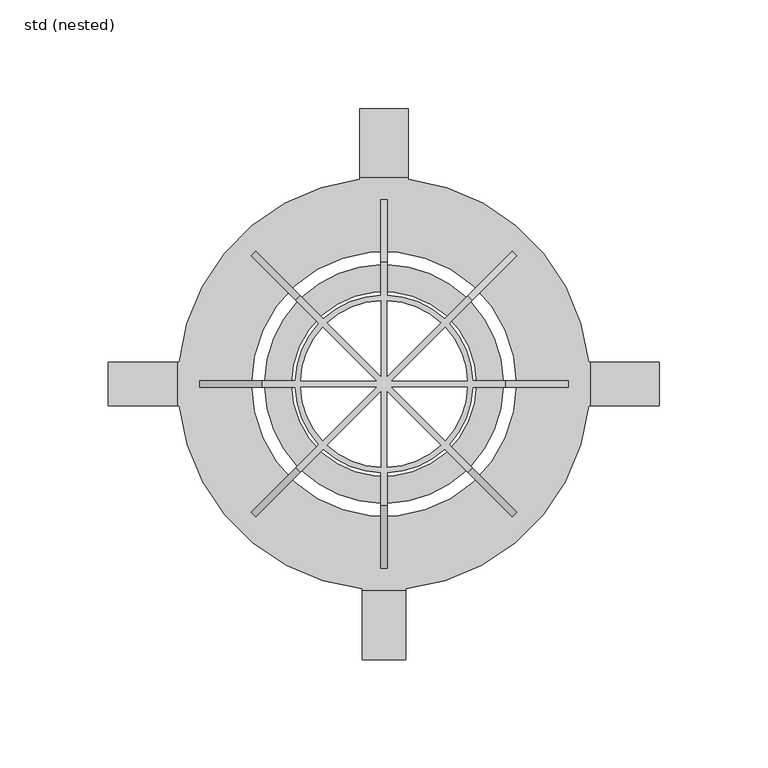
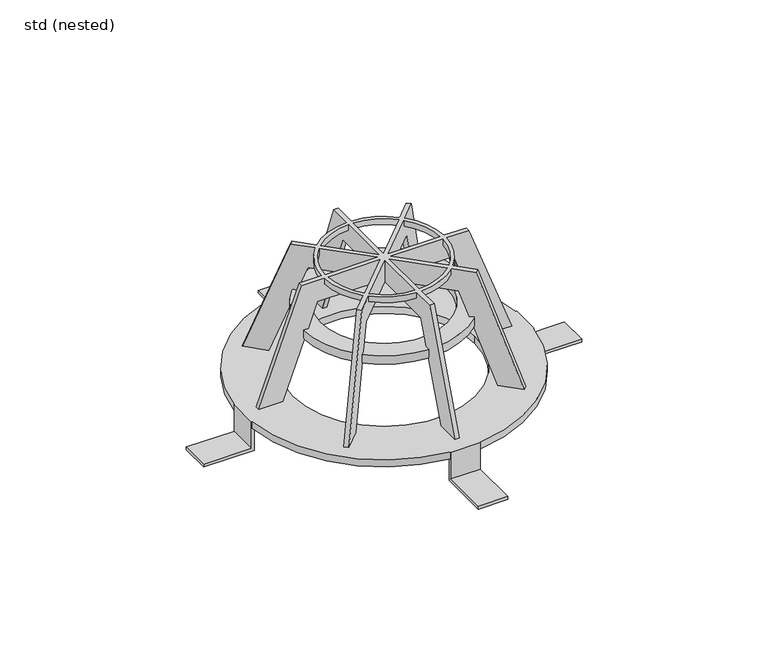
"""IFC4 building model written with IfcOpenShell, lengths in millimetres: sanitary terminal geometry, ZZZ_do not use_PF_PP_gravel trap_ACO : std (nested)."""

from ifc_helpers import new_model, si_unit, frame, origin, place, context, project, spatial, polyline, circle_curve, source, transform, mapped, element, save
from ifc_brep_helpers import plane_surface, cylinder_surface, revolved_surface, advanced_brep


def std_nested_c40f8a32(model_context):
    return source(origin(), model_context, "Body", "AdvancedBrep", [
        advanced_brep(
        [(38.5373196, 40.6586399, 99.0), (59.0434162, 61.1647366, 21.0), (47.7274525, 49.8487728, 21.0), (37.2115055, 39.3328258, 61.0), (37.8157466, 39.9370669, 61.0), (37.8157466, 39.9370669, 67.0), (35.6341134, 37.7554338, 67.0), (31.164836, 33.2861563, 84.0), (1.5, 3.6213203, 84.0), (1.5, 3.6213203, 99.0), (26.1422808, 28.2636012, 99.0), (26.1422808, 28.2636012, 95.0), (27.911309, 30.0326294, 95.0), (27.911309, 30.0326294, 99.0), (-49.8487728, -47.7274525, 21.0), (-61.1647366, -59.0434162, 21.0), (-40.6586399, -38.5373196, 99.0), (-30.0326294, -27.911309, 99.0), (-30.0326294, -27.911309, 95.0), (-28.2636012, -26.1422808, 95.0), (-28.2636012, -26.1422808, 99.0), (-3.6213203, -1.5, 99.0), (-3.6213203, -1.5, 84.0), (-33.2861563, -31.164836, 84.0), (-37.7554338, -35.6341134, 67.0), (-39.9370669, -37.8157466, 67.0), (-39.9370669, -37.8157466, 61.0), (-39.3328258, -37.2115055, 61.0), (-38.5373196, -40.6586399, 99.0), (-59.0434162, -61.1647366, 21.0), (-47.7274525, -49.8487728, 21.0), (-37.2115055, -39.3328258, 61.0), (-37.8157466, -39.9370669, 61.0), (-37.8157466, -39.9370669, 67.0), (-35.6341134, -37.7554338, 67.0), (-31.164836, -33.2861563, 84.0), (-1.5, -3.6213203, 84.0), (-1.5, -3.6213203, 99.0), (-26.1422808, -28.2636012, 99.0), (-26.1422808, -28.2636012, 95.0), (-27.911309, -30.0326294, 95.0), (-27.911309, -30.0326294, 99.0), (49.8487728, 47.7274525, 21.0), (61.1647366, 59.0434162, 21.0), (40.6586399, 38.5373196, 99.0), (30.0326294, 27.911309, 99.0), (30.0326294, 27.911309, 95.0), (28.2636012, 26.1422808, 95.0), (28.2636012, 26.1422808, 99.0), (3.6213203, 1.5, 99.0), (3.6213203, 1.5, 84.0), (33.2861563, 31.164836, 84.0), (37.7554338, 35.6341134, 67.0), (39.9370669, 37.8157466, 67.0), (39.9370669, 37.8157466, 61.0), (39.3328258, 37.2115055, 61.0), (-45.5737337, -1.5, 84.0), (-45.5737337, 1.5, 84.0), (-3.6213203, 1.5, 84.0), (-33.2861563, 31.164836, 84.0), (-31.164836, 33.2861563, 84.0), (-1.5, 3.6213203, 84.0), (-1.5, 45.5737337, 84.0), (1.5, 45.5737337, 84.0), (45.5737337, 1.5, 84.0), (45.5737337, -1.5, 84.0), (3.6213203, -1.5, 84.0), (33.2861563, -31.164836, 84.0), (31.164836, -33.2861563, 84.0), (1.5, -3.6213203, 84.0), (1.5, -45.5737337, 84.0), (-1.5, -45.5737337, 84.0), (-1.5, -40.9725518, 99.0), (-1.5, -56.0, 99.0), (1.5, -56.0, 99.0), (1.5, -40.9725518, 99.0), (27.911309, -30.0326294, 99.0), (38.5373196, -40.6586399, 99.0), (40.6586399, -38.5373196, 99.0), (30.0326294, -27.911309, 99.0), (40.9725518, -1.5, 99.0), (56.0, -1.5, 99.0), (56.0, 1.5, 99.0), (40.9725518, 1.5, 99.0), (1.5, 40.9725518, 99.0), (1.5, 56.0, 99.0), (-1.5, 56.0, 99.0), (-1.5, 40.9725518, 99.0), (-27.911309, 30.0326294, 99.0), (-38.5373196, 40.6586399, 99.0), (-40.6586399, 38.5373196, 99.0), (-30.0326294, 27.911309, 99.0), (-40.9725518, 1.5, 99.0), (-56.0, 1.5, 99.0), (-56.0, -1.5, 99.0), (-40.9725518, -1.5, 99.0), (-38.4707681, -1.5, 99.0), (38.4707681, 1.5, 99.0), (1.5, 38.4707681, 99.0), (-1.5, -38.4707681, 99.0), (-1.5, 3.6213203, 99.0), (-26.1422808, 28.2636012, 99.0), (-1.5, 38.4707681, 99.0), (1.5, -3.6213203, 99.0), (26.1422808, -28.2636012, 99.0), (1.5, -38.4707681, 99.0), (3.6213203, -1.5, 99.0), (38.4707681, -1.5, 99.0), (28.2636012, -26.1422808, 99.0), (-3.6213203, 1.5, 99.0), (-38.4707681, 1.5, 99.0), (-28.2636012, 26.1422808, 99.0), (1.5, -85.0, 21.0), (1.5, -68.9968106, 21.0), (1.5, -54.1250157, 61.0), (1.5, -54.9795416, 61.0), (1.5, -54.9795416, 67.0), (1.5, -51.8942465, 67.0), (1.5, -38.4707681, 95.0), (1.5, -40.9725518, 95.0), (1.5, 68.9968106, 21.0), (1.5, 85.0, 21.0), (1.5, 40.9725518, 95.0), (1.5, 38.4707681, 95.0), (1.5, 51.8942465, 67.0), (1.5, 54.9795416, 67.0), (1.5, 54.9795416, 61.0), (1.5, 54.1250157, 61.0), (-1.5, 85.0, 21.0), (-1.5, 68.9968106, 21.0), (-1.5, 54.1250157, 61.0), (-1.5, 54.9795416, 61.0), (-1.5, 54.9795416, 67.0), (-1.5, 51.8942465, 67.0), (-1.5, 38.4707681, 95.0), (-1.5, 40.9725518, 95.0), (-1.5, -68.9968106, 21.0), (-1.5, -85.0, 21.0), (-1.5, -40.9725518, 95.0), (-1.5, -38.4707681, 95.0), (-1.5, -51.8942465, 67.0), (-1.5, -54.9795416, 67.0), (-1.5, -54.9795416, 61.0), (-1.5, -54.1250157, 61.0), (61.1647366, -59.0434162, 21.0), (49.8487728, -47.7274525, 21.0), (39.3328258, -37.2115055, 61.0), (39.9370669, -37.8157466, 61.0), (39.9370669, -37.8157466, 67.0), (37.7554338, -35.6341134, 67.0), (28.2636012, -26.1422808, 95.0), (30.0326294, -27.911309, 95.0), (-47.7274525, 49.8487728, 21.0), (-59.0434162, 61.1647366, 21.0), (-27.911309, 30.0326294, 95.0), (-26.1422808, 28.2636012, 95.0), (-35.6341134, 37.7554338, 67.0), (-37.8157466, 39.9370669, 67.0), (-37.8157466, 39.9370669, 61.0), (-37.2115055, 39.3328258, 61.0), (-61.1647366, 59.0434162, 21.0), (-49.8487728, 47.7274525, 21.0), (-39.3328258, 37.2115055, 61.0), (-39.9370669, 37.8157466, 61.0), (-39.9370669, 37.8157466, 67.0), (-37.7554338, 35.6341134, 67.0), (-28.2636012, 26.1422808, 95.0), (-30.0326294, 27.911309, 95.0), (47.7274525, -49.8487728, 21.0), (59.0434162, -61.1647366, 21.0), (27.911309, -30.0326294, 95.0), (26.1422808, -28.2636012, 95.0), (35.6341134, -37.7554338, 67.0), (37.8157466, -39.9370669, 67.0), (37.8157466, -39.9370669, 61.0), (37.2115055, -39.3328258, 61.0), (-85.0, -1.5, 21.0), (-68.9968106, -1.5, 21.0), (-54.1250157, -1.5, 61.0), (-54.9795416, -1.5, 61.0), (-54.9795416, -1.5, 67.0), (-51.8942465, -1.5, 67.0), (-38.4707681, -1.5, 95.0), (-40.9725518, -1.5, 95.0), (68.9968106, -1.5, 21.0), (85.0, -1.5, 21.0), (40.9725518, -1.5, 95.0), (38.4707681, -1.5, 95.0), (51.8942465, -1.5, 67.0), (54.9795416, -1.5, 67.0), (54.9795416, -1.5, 61.0), (54.1250157, -1.5, 61.0), (85.0, 1.5, 21.0), (68.9968106, 1.5, 21.0), (54.1250157, 1.5, 61.0), (54.9795416, 1.5, 61.0), (54.9795416, 1.5, 67.0), (51.8942465, 1.5, 67.0), (38.4707681, 1.5, 95.0), (40.9725518, 1.5, 95.0), (-68.9968106, 1.5, 21.0), (-85.0, 1.5, 21.0), (-40.9725518, 1.5, 95.0), (-38.4707681, 1.5, 95.0), (-51.8942465, 1.5, 67.0), (-54.9795416, 1.5, 67.0), (-54.9795416, 1.5, 61.0), (-54.1250157, 1.5, 61.0), (42.5, 0.0, 61.0), (-42.5, 0.0, 61.0), (42.5, 0.0, 67.0), (-42.5, 0.0, 67.0)],
        [
            (0, 1),
            (1, 2),
            (2, 3),
            (3, 4),
            (4, 5),
            (5, 6),
            (6, 7),
            (7, 8),
            (8, 9),
            (9, 10),
            (10, 11),
            (11, 12),
            (12, 13),
            (13, 0),
            (14, 15),
            (15, 16),
            (16, 17),
            (17, 18),
            (18, 19),
            (19, 20),
            (20, 21),
            (21, 22),
            (22, 23),
            (23, 24),
            (24, 25),
            (25, 26),
            (26, 27),
            (27, 14),
            (28, 29),
            (29, 30),
            (30, 31),
            (31, 32),
            (32, 33),
            (33, 34),
            (34, 35),
            (35, 36),
            (36, 37),
            (37, 38),
            (38, 39),
            (39, 40),
            (40, 41),
            (41, 28),
            (42, 43),
            (43, 44),
            (44, 45),
            (45, 46),
            (46, 47),
            (47, 48),
            (48, 49),
            (49, 50),
            (50, 51),
            (51, 52),
            (52, 53),
            (53, 54),
            (54, 55),
            (55, 42),
            (15, 29),
            (28, 16),
            (14, 30),
            (27, 31),
            (23, 35),
            (34, 24),
            (22, 56),
            (56, 57),
            (57, 58),
            (58, 59),
            (59, 60),
            (60, 61),
            (61, 62),
            (62, 63),
            (63, 8),
            (7, 51),
            (50, 64),
            (64, 65),
            (65, 66),
            (66, 67),
            (67, 68),
            (68, 69),
            (69, 70),
            (70, 71),
            (71, 36),
            (6, 52),
            (2, 42),
            (55, 3),
            (1, 43),
            (0, 44),
            (41, 72, circle_curve(frame((0.0, 0.0, 99.0), z_axis=(0.0, 0.0, 1.0), x_axis=(-1.0, 0.0, 0.0)), 41.0)),
            (72, 73),
            (73, 74),
            (74, 75),
            (75, 76, circle_curve(frame((0.0, 0.0, 99.0), z_axis=(0.0, 0.0, 1.0), x_axis=(-1.0, 0.0, 0.0)), 41.0)),
            (76, 77),
            (77, 78),
            (78, 79),
            (79, 80, circle_curve(frame((0.0, 0.0, 99.0), z_axis=(0.0, 0.0, 1.0), x_axis=(-1.0, 0.0, 0.0)), 41.0)),
            (80, 81),
            (81, 82),
            (82, 83),
            (83, 45, circle_curve(frame((0.0, 0.0, 99.0), z_axis=(0.0, 0.0, 1.0), x_axis=(-1.0, 0.0, 0.0)), 41.0)),
            (13, 84, circle_curve(frame((0.0, 0.0, 99.0), z_axis=(0.0, 0.0, 1.0), x_axis=(-1.0, 0.0, 0.0)), 41.0)),
            (84, 85),
            (85, 86),
            (86, 87),
            (87, 88, circle_curve(frame((0.0, 0.0, 99.0), z_axis=(0.0, 0.0, 1.0), x_axis=(-1.0, 0.0, 0.0)), 41.0)),
            (88, 89),
            (89, 90),
            (90, 91),
            (91, 92, circle_curve(frame((0.0, 0.0, 99.0), z_axis=(0.0, 0.0, 1.0), x_axis=(-1.0, 0.0, 0.0)), 41.0)),
            (92, 93),
            (93, 94),
            (94, 95),
            (95, 17, circle_curve(frame((0.0, 0.0, 99.0), z_axis=(0.0, 0.0, 1.0), x_axis=(-1.0, 0.0, 0.0)), 41.0)),
            (20, 96, circle_curve(frame((0.0, 0.0, 99.0), z_axis=(0.0, 0.0, -1.0), x_axis=(-1.0, 0.0, 0.0)), 38.5)),
            (96, 21),
            (48, 97, circle_curve(frame((0.0, 0.0, 99.0), z_axis=(0.0, 0.0, -1.0), x_axis=(-1.0, 0.0, 0.0)), 38.5)),
            (97, 49),
            (9, 98),
            (98, 10, circle_curve(frame((0.0, 0.0, 99.0), z_axis=(0.0, 0.0, -1.0), x_axis=(-1.0, 0.0, 0.0)), 38.5)),
            (37, 99),
            (99, 38, circle_curve(frame((0.0, 0.0, 99.0), z_axis=(0.0, 0.0, -1.0), x_axis=(-1.0, 0.0, 0.0)), 38.5)),
            (100, 101),
            (101, 102, circle_curve(frame((0.0, 0.0, 99.0), z_axis=(0.0, 0.0, -1.0), x_axis=(-1.0, 0.0, 0.0)), 38.5)),
            (102, 100),
            (103, 104),
            (104, 105, circle_curve(frame((0.0, 0.0, 99.0), z_axis=(0.0, 0.0, -1.0), x_axis=(-1.0, 0.0, 0.0)), 38.5)),
            (105, 103),
            (106, 107),
            (107, 108, circle_curve(frame((0.0, 0.0, 99.0), z_axis=(0.0, 0.0, -1.0), x_axis=(-1.0, 0.0, 0.0)), 38.5)),
            (108, 106),
            (109, 110),
            (110, 111, circle_curve(frame((0.0, 0.0, 99.0), z_axis=(0.0, 0.0, -1.0), x_axis=(-1.0, 0.0, 0.0)), 38.5)),
            (111, 109),
            (74, 112),
            (112, 113),
            (113, 114),
            (114, 115),
            (115, 116),
            (116, 117),
            (117, 70),
            (69, 103),
            (105, 118),
            (118, 119),
            (119, 75),
            (120, 121),
            (121, 85),
            (84, 122),
            (122, 123),
            (123, 98),
            (63, 124),
            (124, 125),
            (125, 126),
            (126, 127),
            (127, 120),
            (86, 128),
            (128, 129),
            (129, 130),
            (130, 131),
            (131, 132),
            (132, 133),
            (133, 62),
            (61, 100),
            (102, 134),
            (134, 135),
            (135, 87),
            (136, 137),
            (137, 73),
            (72, 138),
            (138, 139),
            (139, 99),
            (71, 140),
            (140, 141),
            (141, 142),
            (142, 143),
            (143, 136),
            (137, 112),
            (136, 113),
            (117, 140),
            (143, 114),
            (133, 124),
            (129, 120),
            (127, 130),
            (128, 121),
            (78, 144),
            (144, 145),
            (145, 146),
            (146, 147),
            (147, 148),
            (148, 149),
            (149, 67),
            (66, 106),
            (108, 150),
            (150, 151),
            (151, 79),
            (152, 153),
            (153, 89),
            (88, 154),
            (154, 155),
            (155, 101),
            (60, 156),
            (156, 157),
            (157, 158),
            (158, 159),
            (159, 152),
            (90, 160),
            (160, 161),
            (161, 162),
            (162, 163),
            (163, 164),
            (164, 165),
            (165, 59),
            (58, 109),
            (111, 166),
            (166, 167),
            (167, 91),
            (168, 169),
            (169, 77),
            (76, 170),
            (170, 171),
            (171, 104),
            (68, 172),
            (172, 173),
            (173, 174),
            (174, 175),
            (175, 168),
            (169, 144),
            (168, 145),
            (149, 172),
            (175, 146),
            (165, 156),
            (161, 152),
            (159, 162),
            (160, 153),
            (94, 176),
            (176, 177),
            (177, 178),
            (178, 179),
            (179, 180),
            (180, 181),
            (181, 56),
            (96, 182),
            (182, 183),
            (183, 95),
            (184, 185),
            (185, 81),
            (80, 186),
            (186, 187),
            (187, 107),
            (65, 188),
            (188, 189),
            (189, 190),
            (190, 191),
            (191, 184),
            (82, 192),
            (192, 193),
            (193, 194),
            (194, 195),
            (195, 196),
            (196, 197),
            (197, 64),
            (97, 198),
            (198, 199),
            (199, 83),
            (200, 201),
            (201, 93),
            (92, 202),
            (202, 203),
            (203, 110),
            (57, 204),
            (204, 205),
            (205, 206),
            (206, 207),
            (207, 200),
            (201, 176),
            (200, 177),
            (181, 204),
            (207, 178),
            (197, 188),
            (193, 184),
            (191, 194),
            (192, 185),
            (142, 32, circle_curve(frame((0.0, 0.0, 61.0), z_axis=(0.0, 0.0, -1.0), x_axis=(-1.0, 0.0, 0.0)), 55.0)),
            (26, 179, circle_curve(frame((0.0, 0.0, 61.0), z_axis=(0.0, 0.0, -1.0), x_axis=(-1.0, 0.0, 0.0)), 55.0)),
            (206, 163, circle_curve(frame((0.0, 0.0, 61.0), z_axis=(0.0, 0.0, -1.0), x_axis=(-1.0, 0.0, 0.0)), 55.0)),
            (158, 131, circle_curve(frame((0.0, 0.0, 61.0), z_axis=(0.0, 0.0, -1.0), x_axis=(-1.0, 0.0, 0.0)), 55.0)),
            (126, 4, circle_curve(frame((0.0, 0.0, 61.0), z_axis=(0.0, 0.0, -1.0), x_axis=(-1.0, 0.0, 0.0)), 55.0)),
            (54, 195, circle_curve(frame((0.0, 0.0, 61.0), z_axis=(0.0, 0.0, -1.0), x_axis=(-1.0, 0.0, 0.0)), 55.0)),
            (190, 147, circle_curve(frame((0.0, 0.0, 61.0), z_axis=(0.0, 0.0, -1.0), x_axis=(-1.0, 0.0, 0.0)), 55.0)),
            (174, 115, circle_curve(frame((0.0, 0.0, 61.0), z_axis=(0.0, 0.0, -1.0), x_axis=(-1.0, 0.0, 0.0)), 55.0)),
            (208, 209, circle_curve(frame((0.0, 0.0, 61.0), z_axis=(0.0, 0.0, 1.0), x_axis=(-1.0, 0.0, 0.0)), 42.5)),
            (209, 208, circle_curve(frame((0.0, 0.0, 61.0), z_axis=(0.0, 0.0, 1.0), x_axis=(-1.0, 0.0, 0.0)), 42.5)),
            (5, 125, circle_curve(frame((0.0, 0.0, 67.0), z_axis=(0.0, 0.0, 1.0), x_axis=(-1.0, 0.0, 0.0)), 55.0)),
            (132, 157, circle_curve(frame((0.0, 0.0, 67.0), z_axis=(0.0, 0.0, 1.0), x_axis=(-1.0, 0.0, 0.0)), 55.0)),
            (164, 205, circle_curve(frame((0.0, 0.0, 67.0), z_axis=(0.0, 0.0, 1.0), x_axis=(-1.0, 0.0, 0.0)), 55.0)),
            (180, 25, circle_curve(frame((0.0, 0.0, 67.0), z_axis=(0.0, 0.0, 1.0), x_axis=(-1.0, 0.0, 0.0)), 55.0)),
            (33, 141, circle_curve(frame((0.0, 0.0, 67.0), z_axis=(0.0, 0.0, 1.0), x_axis=(-1.0, 0.0, 0.0)), 55.0)),
            (116, 173, circle_curve(frame((0.0, 0.0, 67.0), z_axis=(0.0, 0.0, 1.0), x_axis=(-1.0, 0.0, 0.0)), 55.0)),
            (148, 189, circle_curve(frame((0.0, 0.0, 67.0), z_axis=(0.0, 0.0, 1.0), x_axis=(-1.0, 0.0, 0.0)), 55.0)),
            (196, 53, circle_curve(frame((0.0, 0.0, 67.0), z_axis=(0.0, 0.0, 1.0), x_axis=(-1.0, 0.0, 0.0)), 55.0)),
            (210, 211, circle_curve(frame((0.0, 0.0, 67.0), z_axis=(0.0, 0.0, -1.0), x_axis=(-1.0, 0.0, 0.0)), 42.5)),
            (211, 210, circle_curve(frame((0.0, 0.0, 67.0), z_axis=(0.0, 0.0, -1.0), x_axis=(-1.0, 0.0, 0.0)), 42.5)),
            (209, 211),
            (210, 208),
            (138, 40, circle_curve(frame((0.0, 0.0, 95.0), z_axis=(0.0, 0.0, -1.0), x_axis=(-1.0, 0.0, 0.0)), 41.0)),
            (39, 139, circle_curve(frame((0.0, 0.0, 95.0), z_axis=(0.0, 0.0, 1.0), x_axis=(-1.0, 0.0, 0.0)), 38.5)),
            (170, 119, circle_curve(frame((0.0, 0.0, 95.0), z_axis=(0.0, 0.0, -1.0), x_axis=(-1.0, 0.0, 0.0)), 41.0)),
            (118, 171, circle_curve(frame((0.0, 0.0, 95.0), z_axis=(0.0, 0.0, 1.0), x_axis=(-1.0, 0.0, 0.0)), 38.5)),
            (186, 151, circle_curve(frame((0.0, 0.0, 95.0), z_axis=(0.0, 0.0, -1.0), x_axis=(-1.0, 0.0, 0.0)), 41.0)),
            (150, 187, circle_curve(frame((0.0, 0.0, 95.0), z_axis=(0.0, 0.0, 1.0), x_axis=(-1.0, 0.0, 0.0)), 38.5)),
            (18, 183, circle_curve(frame((0.0, 0.0, 95.0), z_axis=(0.0, 0.0, -1.0), x_axis=(-1.0, 0.0, 0.0)), 41.0)),
            (182, 19, circle_curve(frame((0.0, 0.0, 95.0), z_axis=(0.0, 0.0, 1.0), x_axis=(-1.0, 0.0, 0.0)), 38.5)),
            (122, 12, circle_curve(frame((0.0, 0.0, 95.0), z_axis=(0.0, 0.0, -1.0), x_axis=(-1.0, 0.0, 0.0)), 41.0)),
            (11, 123, circle_curve(frame((0.0, 0.0, 95.0), z_axis=(0.0, 0.0, 1.0), x_axis=(-1.0, 0.0, 0.0)), 38.5)),
            (154, 135, circle_curve(frame((0.0, 0.0, 95.0), z_axis=(0.0, 0.0, -1.0), x_axis=(-1.0, 0.0, 0.0)), 41.0)),
            (134, 155, circle_curve(frame((0.0, 0.0, 95.0), z_axis=(0.0, 0.0, 1.0), x_axis=(-1.0, 0.0, 0.0)), 38.5)),
            (202, 167, circle_curve(frame((0.0, 0.0, 95.0), z_axis=(0.0, 0.0, -1.0), x_axis=(-1.0, 0.0, 0.0)), 41.0)),
            (166, 203, circle_curve(frame((0.0, 0.0, 95.0), z_axis=(0.0, 0.0, 1.0), x_axis=(-1.0, 0.0, 0.0)), 38.5)),
            (46, 199, circle_curve(frame((0.0, 0.0, 95.0), z_axis=(0.0, 0.0, -1.0), x_axis=(-1.0, 0.0, 0.0)), 41.0)),
            (198, 47, circle_curve(frame((0.0, 0.0, 95.0), z_axis=(0.0, 0.0, 1.0), x_axis=(-1.0, 0.0, 0.0)), 38.5)),
        ],
        [
            plane_surface(frame((-40.6586399, -38.5373196, 99.0), z_axis=(-0.7071067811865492, 0.7071067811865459, 0.0), x_axis=(0.7071067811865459, 0.7071067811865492, 0.0))),
            plane_surface(frame((-38.5373196, -40.6586399, 99.0), z_axis=(0.7071067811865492, -0.7071067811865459, 0.0), x_axis=(-0.7071067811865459, -0.7071067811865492, 0.0))),
            plane_surface(frame((-61.1647366, -59.0434162, 21.0), z_axis=(-0.6627804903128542, -0.6627804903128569, 0.3484882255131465), x_axis=(0.707106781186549, -0.7071067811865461, 0.0))),
            plane_surface(frame((-49.8487728, -47.7274525, 21.0), z_axis=(0.0, 0.0, -1.0), x_axis=(0.707106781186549, -0.7071067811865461, 0.0))),
            plane_surface(frame((-33.2861563, -31.164836, 84.0), z_axis=(0.6627804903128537, 0.6627804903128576, -0.3484882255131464), x_axis=(0.7071067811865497, -0.7071067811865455, 0.0))),
            plane_surface(frame((31.164836, 33.2861563, 84.0), z_axis=(0.0, 0.0, -1.0), x_axis=(0.707106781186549, -0.7071067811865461, 0.0))),
            plane_surface(frame((47.7274525, 49.8487728, 21.0), z_axis=(-0.6627804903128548, -0.6627804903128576, -0.3484882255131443), x_axis=(0.707106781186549, -0.7071067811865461, 0.0))),
            plane_surface(frame((59.0434162, 61.1647366, 21.0), z_axis=(0.0, 0.0, -1.0), x_axis=(0.7071067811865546, -0.7071067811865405, 0.0))),
            plane_surface(frame((38.5373196, 40.6586399, 99.0), z_axis=(0.662780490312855, 0.6627804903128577, 0.34848822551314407), x_axis=(0.707106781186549, -0.7071067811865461, 0.0))),
            plane_surface(frame((-40.6586399, -38.5373196, 99.0), z_axis=(0.0, 0.0, 1.0), x_axis=(0.707106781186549, -0.7071067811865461, 0.0))),
            plane_surface(frame((1.5, -85.0, 21.0), z_axis=(1.0, 0.0, 0.0), x_axis=(0.0, -0.3484882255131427, -0.9373131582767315))),
            plane_surface(frame((-1.5, -85.0, 21.0), z_axis=(-1.0, 0.0, 0.0), x_axis=(0.0, 0.3484882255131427, 0.9373131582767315))),
            plane_surface(frame((1.5, -56.0, 99.0), z_axis=(0.0, -0.9373131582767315, 0.3484882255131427), x_axis=(-1.0, 0.0, 0.0))),
            plane_surface(frame((1.5, -85.0, 21.0), z_axis=(0.0, 0.0, -1.0), x_axis=(-1.0, 0.0, 0.0))),
            plane_surface(frame((1.5, -68.9968106, 21.0), z_axis=(0.0, 0.9373131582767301, -0.34848822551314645), x_axis=(-1.0, 0.0, 0.0))),
            plane_surface(frame((1.5, 45.5737337, 84.0), z_axis=(0.0, -0.9373131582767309, -0.34848822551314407), x_axis=(-1.0, 0.0, 0.0))),
            plane_surface(frame((1.5, 68.9968106, 21.0), z_axis=(0.0, 0.0, -1.0), x_axis=(-1.0, 0.0, 0.0))),
            plane_surface(frame((1.5, 85.0, 21.0), z_axis=(0.0, 0.9373131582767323, 0.34848822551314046), x_axis=(-1.0, 0.0, 0.0))),
            plane_surface(frame((61.1647366, -59.0434162, 21.0), z_axis=(0.7071067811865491, 0.7071067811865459, 0.0), x_axis=(0.24641838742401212, -0.24641838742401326, -0.93731315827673))),
            plane_surface(frame((59.0434162, -61.1647366, 21.0), z_axis=(-0.7071067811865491, -0.7071067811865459, 0.0), x_axis=(-0.24641838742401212, 0.24641838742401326, 0.93731315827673))),
            plane_surface(frame((40.6586399, -38.5373196, 99.0), z_axis=(0.6627804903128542, -0.6627804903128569, 0.3484882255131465), x_axis=(-0.707106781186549, -0.7071067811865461, 0.0))),
            plane_surface(frame((61.1647366, -59.0434162, 21.0), z_axis=(0.0, 0.0, -1.0), x_axis=(-0.7071067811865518, -0.7071067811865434, 0.0))),
            plane_surface(frame((49.8487728, -47.7274525, 21.0), z_axis=(-0.6627804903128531, 0.6627804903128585, -0.3484882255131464), x_axis=(-0.7071067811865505, -0.7071067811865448, 0.0))),
            plane_surface(frame((-31.164836, 33.2861563, 84.0), z_axis=(0.6627804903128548, -0.6627804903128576, -0.34848822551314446), x_axis=(-0.707106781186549, -0.7071067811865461, 0.0))),
            plane_surface(frame((-47.7274525, 49.8487728, 21.0), z_axis=(0.0, 0.0, -1.0), x_axis=(-0.7071067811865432, -0.7071067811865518, 0.0))),
            plane_surface(frame((-59.0434162, 61.1647366, 21.0), z_axis=(-0.662780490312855, 0.6627804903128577, 0.34848822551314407), x_axis=(-0.707106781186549, -0.7071067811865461, 0.0))),
            plane_surface(frame((-56.0, -1.5, 99.0), z_axis=(0.0, -1.0, 0.0), x_axis=(-1.0, 0.0, 0.0))),
            plane_surface(frame((-56.0, 1.5, 99.0), z_axis=(0.0, 1.0, 0.0), x_axis=(1.0, 0.0, 0.0))),
            plane_surface(frame((-56.0, -1.5, 99.0), z_axis=(-0.9373131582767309, 0.0, 0.3484882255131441), x_axis=(0.0, 1.0, 0.0))),
            plane_surface(frame((-85.0, -1.5, 21.0), z_axis=(0.0, 0.0, -1.0), x_axis=(0.0, 1.0, 0.0))),
            plane_surface(frame((-68.9968106, -1.5, 21.0), z_axis=(0.9373131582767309, 0.0, -0.3484882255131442), x_axis=(0.0, 1.0, 0.0))),
            plane_surface(frame((45.5737337, -1.5, 84.0), z_axis=(-0.9373131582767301, 0.0, -0.3484882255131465), x_axis=(0.0, 1.0, 0.0))),
            plane_surface(frame((68.9968106, -1.5, 21.0), z_axis=(0.0, 0.0, -1.0), x_axis=(0.0, 1.0, 0.0))),
            plane_surface(frame((85.0, -1.5, 21.0), z_axis=(0.9373131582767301, 0.0, 0.3484882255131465), x_axis=(0.0, 1.0, 0.0))),
            plane_surface(frame((-42.5, 0.0, 61.0), z_axis=(0.0, 0.0, -1.0), x_axis=(0.0, -1.0, 0.0))),
            plane_surface(frame((-42.5, 0.0, 67.0), z_axis=(0.0, 0.0, 1.0), x_axis=(0.0, 1.0, 0.0))),
            revolved_surface(polyline([(-42.5, 0.0, 61.0), (-42.5, 0.0, 67.0)]), (0.0, 0.0, 61.0), (0.0, 0.0, -1.0)),
            cylinder_surface(frame((0.0, 0.0, 67.0), z_axis=(0.0, 0.0, 1.0), x_axis=(-1.0, 0.0, 0.0)), 55.0),
            plane_surface(frame((-41.0, 0.0, 95.0), z_axis=(0.0, 0.0, -1.0), x_axis=(0.0, 1.0, 0.0))),
            cylinder_surface(frame((0.0, 0.0, 95.0), z_axis=(0.0, 0.0, 1.0), x_axis=(-1.0, 0.0, 0.0)), 41.0),
            revolved_surface(polyline([(-38.5, 0.0, 95.0), (-38.5, 0.0, 99.0)]), (0.0, 0.0, 99.0), (0.0, 0.0, -1.0)),
        ],
        [
            (0, [[1, 2, 3, 4, 5, 6, 7, 8, 9, 10, 11, 12, 13, 14]]),
            (0, [[15, 16, 17, 18, 19, 20, 21, 22, 23, 24, 25, 26, 27, 28]]),
            (1, [[29, 30, 31, 32, 33, 34, 35, 36, 37, 38, 39, 40, 41, 42]]),
            (1, [[43, 44, 45, 46, 47, 48, 49, 50, 51, 52, 53, 54, 55, 56]]),
            (2, [[-16, 57, -29, 58]]),
            (3, [[-15, 59, -30, -57]]),
            (4, [[-59, -28, 60, -31]]),
            (4, [[61, -35, 62, -24]]),
            (5, [[-61, -23, 63, 64, 65, 66, 67, 68, 69, 70, 71, -8, 72, -51, 73, 74, 75, 76, 77, 78, 79, 80, 81, -36]]),
            (6, [[-72, -7, 82, -52]]),
            (6, [[83, -56, 84, -3]]),
            (7, [[-2, 85, -43, -83]]),
            (8, [[-1, 86, -44, -85]]),
            (9, [[-58, -42, 87, 88, 89, 90, 91, 92, 93, 94, 95, 96, 97, 98, 99, -45, -86, -14, 100, 101, 102, 103, 104, 105, 106, 107, 108, 109, 110, 111, 112, -17], [-21, 113, 114], [-49, 115, 116], [117, 118, -10], [119, 120, -38], [121, 122, 123], [124, 125, 126], [127, 128, 129], [130, 131, 132]]),
            (10, [[133, 134, 135, 136, 137, 138, 139, -79, 140, -126, 141, 142, 143, -90]]),
            (10, [[144, 145, -101, 146, 147, 148, -117, -9, -71, 149, 150, 151, 152, 153]]),
            (11, [[154, 155, 156, 157, 158, 159, 160, -69, 161, -123, 162, 163, 164, -103]]),
            (11, [[165, 166, -88, 167, 168, 169, -119, -37, -81, 170, 171, 172, 173, 174]]),
            (12, [[-133, -89, -166, 175]]),
            (13, [[-134, -175, -165, 176]]),
            (14, [[-80, -139, 177, -170]]),
            (14, [[-176, -174, 178, -135]]),
            (15, [[-70, -160, 179, -149]]),
            (15, [[180, -153, 181, -156]]),
            (16, [[-144, -180, -155, 182]]),
            (17, [[-145, -182, -154, -102]]),
            (18, [[183, 184, 185, 186, 187, 188, 189, -76, 190, -129, 191, 192, 193, -94]]),
            (18, [[194, 195, -105, 196, 197, 198, -121, -161, -68, 199, 200, 201, 202, 203]]),
            (19, [[204, 205, 206, 207, 208, 209, 210, -66, 211, -132, 212, 213, 214, -107]]),
            (19, [[215, 216, -92, 217, 218, 219, -124, -140, -78, 220, 221, 222, 223, 224]]),
            (20, [[-183, -93, -216, 225]]),
            (21, [[-184, -225, -215, 226]]),
            (22, [[-77, -189, 227, -220]]),
            (22, [[-226, -224, 228, -185]]),
            (23, [[-67, -210, 229, -199]]),
            (23, [[230, -203, 231, -206]]),
            (24, [[-194, -230, -205, 232]]),
            (25, [[-195, -232, -204, -106]]),
            (26, [[233, 234, 235, 236, 237, 238, 239, -63, -22, -114, 240, 241, 242, -111]]),
            (26, [[243, 244, -96, 245, 246, 247, -127, -190, -75, 248, 249, 250, 251, 252]]),
            (27, [[253, 254, 255, 256, 257, 258, 259, -73, -50, -116, 260, 261, 262, -98]]),
            (27, [[263, 264, -109, 265, 266, 267, -130, -211, -65, 268, 269, 270, 271, 272]]),
            (28, [[-233, -110, -264, 273]]),
            (29, [[-234, -273, -263, 274]]),
            (30, [[-64, -239, 275, -268]]),
            (30, [[-274, -272, 276, -235]]),
            (31, [[-74, -259, 277, -248]]),
            (31, [[278, -252, 279, -255]]),
            (32, [[-243, -278, -254, 280]]),
            (33, [[-244, -280, -253, -97]]),
            (34, [[281, -32, -60, -27, 282, -236, -276, -271, 283, -207, -231, -202, 284, -157, -181, -152, 285, -4, -84, -55, 286, -256, -279, -251, 287, -186, -228, -223, 288, -136, -178, -173], [289, 290]]),
            (35, [[291, -150, -179, -159, 292, -200, -229, -209, 293, -269, -275, -238, 294, -25, -62, -34, 295, -171, -177, -138, 296, -221, -227, -188, 297, -249, -277, -258, 298, -53, -82, -6], [299, 300]]),
            (36, [[-290, 301, -299, 302]]),
            (36, [[-289, -302, -300, -301]]),
            (37, [[-283, -270, -293, -208]]),
            (37, [[-284, -201, -292, -158]]),
            (37, [[-285, -151, -291, -5]]),
            (37, [[-286, -54, -298, -257]]),
            (37, [[-281, -172, -295, -33]]),
            (37, [[-282, -26, -294, -237]]),
            (37, [[-287, -250, -297, -187]]),
            (37, [[-288, -222, -296, -137]]),
            (38, [[303, -40, 304, -168]]),
            (38, [[305, -142, 306, -218]]),
            (38, [[307, -192, 308, -246]]),
            (38, [[309, -241, 310, -19]]),
            (38, [[311, -12, 312, -147]]),
            (38, [[313, -163, 314, -197]]),
            (38, [[315, -213, 316, -266]]),
            (38, [[317, -261, 318, -47]]),
            (39, [[-99, -262, -317, -46]]),
            (39, [[-100, -13, -311, -146]]),
            (39, [[-104, -164, -313, -196]]),
            (39, [[-108, -214, -315, -265]]),
            (39, [[-87, -41, -303, -167]]),
            (39, [[-91, -143, -305, -217]]),
            (39, [[-95, -193, -307, -245]]),
            (39, [[-112, -242, -309, -18]]),
            (40, [[-113, -20, -310, -240]]),
            (40, [[-120, -169, -304, -39]]),
            (40, [[-125, -219, -306, -141]]),
            (40, [[-128, -247, -308, -191]]),
            (40, [[-115, -48, -318, -260]]),
            (40, [[-118, -148, -312, -11]]),
            (40, [[-122, -198, -314, -162]]),
            (40, [[-131, -267, -316, -212]]),
        ],
    ),
        advanced_brep(
        [(-94.4722181, -10.0, 16.0), (-93.0, -10.0, 16.0), (-93.0, 10.0, 16.0), (-94.4722181, 10.0, 16.0), (-11.1553038, 94.342775, 16.0), (-11.1553038, 93.0, 16.0), (11.1553038, 93.0, 16.0), (11.1553038, 94.342775, 16.0), (94.4722181, 10.0, 16.0), (93.0, 10.0, 16.0), (93.0, -10.0, 16.0), (94.4722181, -10.0, 16.0), (10.0, -94.4722181, 16.0), (10.0, -93.0, 16.0), (-10.0, -93.0, 16.0), (-10.0, -94.4722181, 16.0), (61.0, 0.0, 16.0), (-61.0, 0.0, 16.0), (-94.4722181, 10.0, 21.0), (-95.0, 10.0, 21.0), (-95.0, -10.0, 21.0), (-94.4722181, -10.0, 21.0), (-10.0, -94.4722181, 21.0), (-10.0, -95.0, 21.0), (10.0, -95.0, 21.0), (10.0, -94.4722181, 21.0), (94.4722181, -10.0, 21.0), (95.0, -10.0, 21.0), (95.0, 10.0, 21.0), (94.4722181, 10.0, 21.0), (11.1553038, 94.342775, 21.0), (11.1553038, 95.0, 21.0), (-11.1553038, 95.0, 21.0), (-11.1553038, 94.342775, 21.0), (61.0, 0.0, 21.0), (-61.0, 0.0, 21.0), (-127.0, 10.0, 0.0), (-127.0, -10.0, 0.0), (-127.0, -10.0, 2.0), (-127.0, 10.0, 2.0), (-93.0, 10.0, 0.0), (-93.0, -10.0, 0.0), (-95.0, -10.0, 2.0), (-95.0, 10.0, 2.0), (-10.0, -127.0, 0.0), (10.0, -127.0, 0.0), (10.0, -127.0, 2.0), (-10.0, -127.0, 2.0), (-10.0, -93.0, 0.0), (10.0, -93.0, 0.0), (10.0, -95.0, 2.0), (-10.0, -95.0, 2.0), (127.0, -10.0, 0.0), (127.0, 10.0, 0.0), (127.0, 10.0, 2.0), (127.0, -10.0, 2.0), (93.0, -10.0, 0.0), (93.0, 10.0, 0.0), (95.0, 10.0, 2.0), (95.0, -10.0, 2.0), (11.1553038, 127.0, 0.0), (-11.1553038, 127.0, 0.0), (-11.1553038, 127.0, 2.0), (11.1553038, 127.0, 2.0), (11.1553038, 93.0, 0.0), (-11.1553038, 93.0, 0.0), (-11.1553038, 95.0, 2.0), (11.1553038, 95.0, 2.0)],
        [
            (0, 1),
            (1, 2),
            (2, 3),
            (3, 4, circle_curve(frame((0.0, 0.0, 16.0), z_axis=(0.0, 0.0, -1.0), x_axis=(-1.0, 0.0, 0.0)), 95.0)),
            (4, 5),
            (5, 6),
            (6, 7),
            (7, 8, circle_curve(frame((0.0, 0.0, 16.0), z_axis=(0.0, 0.0, -1.0), x_axis=(-1.0, 0.0, 0.0)), 95.0)),
            (8, 9),
            (9, 10),
            (10, 11),
            (11, 12, circle_curve(frame((0.0, 0.0, 16.0), z_axis=(0.0, 0.0, -1.0), x_axis=(-1.0, 0.0, 0.0)), 95.0)),
            (12, 13),
            (13, 14),
            (14, 15),
            (15, 0, circle_curve(frame((0.0, 0.0, 16.0), z_axis=(0.0, 0.0, -1.0), x_axis=(-1.0, 0.0, 0.0)), 95.0)),
            (16, 17, circle_curve(frame((0.0, 0.0, 16.0), z_axis=(0.0, 0.0, 1.0), x_axis=(-1.0, 0.0, 0.0)), 61.0)),
            (17, 16, circle_curve(frame((0.0, 0.0, 16.0), z_axis=(0.0, 0.0, 1.0), x_axis=(-1.0, 0.0, 0.0)), 61.0)),
            (18, 19),
            (19, 20),
            (20, 21),
            (21, 22, circle_curve(frame((0.0, 0.0, 21.0), z_axis=(0.0, 0.0, 1.0), x_axis=(-1.0, 0.0, 0.0)), 95.0)),
            (22, 23),
            (23, 24),
            (24, 25),
            (25, 26, circle_curve(frame((0.0, 0.0, 21.0), z_axis=(0.0, 0.0, 1.0), x_axis=(-1.0, 0.0, 0.0)), 95.0)),
            (26, 27),
            (27, 28),
            (28, 29),
            (29, 30, circle_curve(frame((0.0, 0.0, 21.0), z_axis=(0.0, 0.0, 1.0), x_axis=(-1.0, 0.0, 0.0)), 95.0)),
            (30, 31),
            (31, 32),
            (32, 33),
            (33, 18, circle_curve(frame((0.0, 0.0, 21.0), z_axis=(0.0, 0.0, 1.0), x_axis=(-1.0, 0.0, 0.0)), 95.0)),
            (34, 35, circle_curve(frame((0.0, 0.0, 21.0), z_axis=(0.0, 0.0, -1.0), x_axis=(-1.0, 0.0, 0.0)), 61.0)),
            (35, 34, circle_curve(frame((0.0, 0.0, 21.0), z_axis=(0.0, 0.0, -1.0), x_axis=(-1.0, 0.0, 0.0)), 61.0)),
            (3, 18),
            (33, 4),
            (29, 8),
            (7, 30),
            (21, 0),
            (15, 22),
            (25, 12),
            (11, 26),
            (17, 35),
            (34, 16),
            (36, 37),
            (37, 38),
            (38, 39),
            (39, 36),
            (36, 40),
            (40, 41),
            (41, 37),
            (41, 1),
            (20, 42),
            (42, 38),
            (42, 43),
            (43, 39),
            (43, 19),
            (2, 40),
            (44, 45),
            (45, 46),
            (46, 47),
            (47, 44),
            (44, 48),
            (48, 49),
            (49, 45),
            (49, 13),
            (24, 50),
            (50, 46),
            (50, 51),
            (51, 47),
            (51, 23),
            (14, 48),
            (52, 53),
            (53, 54),
            (54, 55),
            (55, 52),
            (52, 56),
            (56, 57),
            (57, 53),
            (57, 9),
            (28, 58),
            (58, 54),
            (58, 59),
            (59, 55),
            (59, 27),
            (10, 56),
            (60, 61),
            (61, 62),
            (62, 63),
            (63, 60),
            (60, 64),
            (64, 65),
            (65, 61),
            (65, 5),
            (32, 66),
            (66, 62),
            (66, 67),
            (67, 63),
            (67, 31),
            (6, 64),
        ],
        [
            plane_surface(frame((-95.0, 0.0, 16.0), z_axis=(0.0, 0.0, -1.0), x_axis=(0.0, 1.0, 0.0))),
            plane_surface(frame((-95.0, 0.0, 21.0), z_axis=(0.0, 0.0, 1.0), x_axis=(0.0, -1.0, 0.0))),
            cylinder_surface(frame((0.0, 0.0, 16.0), z_axis=(0.0, 0.0, 1.0), x_axis=(-1.0, 0.0, 0.0)), 95.0),
            revolved_surface(polyline([(-61.0, 0.0, 16.0), (-61.0, 0.0, 21.0)]), (0.0, 0.0, 21.0), (0.0, 0.0, -1.0)),
            plane_surface(frame((-127.0, 0.0, 2.0), z_axis=(-1.0, 0.0, 0.0), x_axis=(0.0, -1.0, 0.0))),
            plane_surface(frame((-127.0, 10.0, 0.0), z_axis=(0.0, 0.0, -1.0), x_axis=(1.0, 0.0, 0.0))),
            plane_surface(frame((-127.0, -10.0, 0.0), z_axis=(0.0, -1.0, 0.0), x_axis=(1.0, 0.0, 0.0))),
            plane_surface(frame((-127.0, -10.0, 2.0), z_axis=(0.0, 0.0, 1.0), x_axis=(1.0, 0.0, 0.0))),
            plane_surface(frame((-127.0, 10.0, 2.0), z_axis=(0.0, 1.0, 0.0), x_axis=(1.0, 0.0, 0.0))),
            plane_surface(frame((-93.0, 10.0, 0.0), z_axis=(1.0, 0.0, 0.0), x_axis=(0.0, 0.0, 1.0))),
            plane_surface(frame((-95.0, -10.0, 2.0), z_axis=(-1.0, 0.0, 0.0), x_axis=(0.0, 0.0, 1.0))),
            plane_surface(frame((0.0, -127.0, 2.0), z_axis=(0.0, -1.0, 0.0), x_axis=(1.0, 0.0, 0.0))),
            plane_surface(frame((-10.0, -127.0, 0.0), z_axis=(0.0, 0.0, -1.0), x_axis=(0.0, 1.0, 0.0))),
            plane_surface(frame((10.0, -127.0, 0.0), z_axis=(1.0, 0.0, 0.0), x_axis=(0.0, 1.0, 0.0))),
            plane_surface(frame((10.0, -127.0, 2.0), z_axis=(0.0, 0.0, 1.0), x_axis=(0.0, 1.0, 0.0))),
            plane_surface(frame((-10.0, -127.0, 2.0), z_axis=(-1.0, 0.0, 0.0), x_axis=(0.0, 1.0, 0.0))),
            plane_surface(frame((-10.0, -93.0, 0.0), z_axis=(0.0, 1.0, 0.0), x_axis=(0.0, 0.0, 1.0))),
            plane_surface(frame((10.0, -95.0, 2.0), z_axis=(0.0, -1.0, 0.0), x_axis=(0.0, 0.0, 1.0))),
            plane_surface(frame((127.0, 0.0, 2.0), z_axis=(1.0, 0.0, 0.0), x_axis=(0.0, -1.0, 0.0))),
            plane_surface(frame((127.0, -10.0, 0.0), z_axis=(0.0, 0.0, -1.0), x_axis=(-1.0, 0.0, 0.0))),
            plane_surface(frame((127.0, 10.0, 0.0), z_axis=(0.0, 1.0, 0.0), x_axis=(-1.0, 0.0, 0.0))),
            plane_surface(frame((127.0, 10.0, 2.0), z_axis=(0.0, 0.0, 1.0), x_axis=(-1.0, 0.0, 0.0))),
            plane_surface(frame((127.0, -10.0, 2.0), z_axis=(0.0, -1.0, 0.0), x_axis=(-1.0, 0.0, 0.0))),
            plane_surface(frame((93.0, -10.0, 0.0), z_axis=(-1.0, 0.0, 0.0), x_axis=(0.0, 0.0, 1.0))),
            plane_surface(frame((95.0, 10.0, 2.0), z_axis=(1.0, 0.0, 0.0), x_axis=(0.0, 0.0, 1.0))),
            plane_surface(frame((0.0, 127.0, 2.0), z_axis=(0.0, 1.0, 0.0), x_axis=(1.0, 0.0, 0.0))),
            plane_surface(frame((11.1553038, 127.0, 0.0), z_axis=(0.0, 0.0, -1.0), x_axis=(0.0, -1.0, 0.0))),
            plane_surface(frame((-11.1553038, 127.0, 0.0), z_axis=(-1.0, 0.0, 0.0), x_axis=(0.0, -1.0, 0.0))),
            plane_surface(frame((-11.1553038, 127.0, 2.0), z_axis=(0.0, 0.0, 1.0), x_axis=(0.0, -1.0, 0.0))),
            plane_surface(frame((11.1553038, 127.0, 2.0), z_axis=(1.0, 0.0, 0.0), x_axis=(0.0, -1.0, 0.0))),
            plane_surface(frame((11.1553038, 93.0, 0.0), z_axis=(0.0, -1.0, 0.0), x_axis=(0.0, 0.0, 1.0))),
            plane_surface(frame((-11.1553038, 95.0, 2.0), z_axis=(0.0, 1.0, 0.0), x_axis=(0.0, 0.0, 1.0))),
        ],
        [
            (0, [[1, 2, 3, 4, 5, 6, 7, 8, 9, 10, 11, 12, 13, 14, 15, 16], [17, 18]]),
            (1, [[19, 20, 21, 22, 23, 24, 25, 26, 27, 28, 29, 30, 31, 32, 33, 34], [35, 36]]),
            (2, [[37, -34, 38, -4]]),
            (2, [[39, -8, 40, -30]]),
            (2, [[41, -16, 42, -22]]),
            (2, [[43, -12, 44, -26]]),
            (3, [[-18, 45, -35, 46]]),
            (3, [[-17, -46, -36, -45]]),
            (4, [[47, 48, 49, 50]]),
            (5, [[-47, 51, 52, 53]]),
            (6, [[-48, -53, 54, -1, -41, -21, 55, 56]]),
            (7, [[-49, -56, 57, 58]]),
            (8, [[-50, -58, 59, -19, -37, -3, 60, -51]]),
            (9, [[-52, -60, -2, -54]]),
            (10, [[-55, -20, -59, -57]]),
            (11, [[61, 62, 63, 64]]),
            (12, [[-61, 65, 66, 67]]),
            (13, [[-62, -67, 68, -13, -43, -25, 69, 70]]),
            (14, [[-63, -70, 71, 72]]),
            (15, [[-64, -72, 73, -23, -42, -15, 74, -65]]),
            (16, [[-66, -74, -14, -68]]),
            (17, [[-69, -24, -73, -71]]),
            (18, [[75, 76, 77, 78]]),
            (19, [[-75, 79, 80, 81]]),
            (20, [[-76, -81, 82, -9, -39, -29, 83, 84]]),
            (21, [[-77, -84, 85, 86]]),
            (22, [[-78, -86, 87, -27, -44, -11, 88, -79]]),
            (23, [[-80, -88, -10, -82]]),
            (24, [[-83, -28, -87, -85]]),
            (25, [[89, 90, 91, 92]]),
            (26, [[-89, 93, 94, 95]]),
            (27, [[-90, -95, 96, -5, -38, -33, 97, 98]]),
            (28, [[-91, -98, 99, 100]]),
            (29, [[-92, -100, 101, -31, -40, -7, 102, -93]]),
            (30, [[-94, -102, -6, -96]]),
            (31, [[-97, -32, -101, -99]]),
        ],
    ),
    ])


if __name__ == "__main__":
    model = new_model("IFC4")
    model_context = context("Model", 3, world=origin())
    ifc_project = project(units=[si_unit("LENGTHUNIT", "METRE", prefix="MILLI")], contexts=[model_context])
    site = spatial("IfcSite", under=ifc_project)
    building = spatial("IfcBuilding", under=site)
    placement = place(None, origin())
    std_nested_shape = std_nested_c40f8a32(model_context)
    element("IfcSanitaryTerminal", 1, ObjectType="ZZZ_do not use_PF_PP_gravel trap_ACO : std (nested)", at=placement, inside=building, context=model_context, shape_type="MappedRepresentation", body=[
        mapped(std_nested_shape, transform((0.0, 0.0, 0.0), x_axis=(1.0, 0.0, 0.0), y_axis=(0.0, 1.0, 0.0), z_axis=(0.0, 0.0, 1.0))),
    ])
    save(model, "model.ifc")
